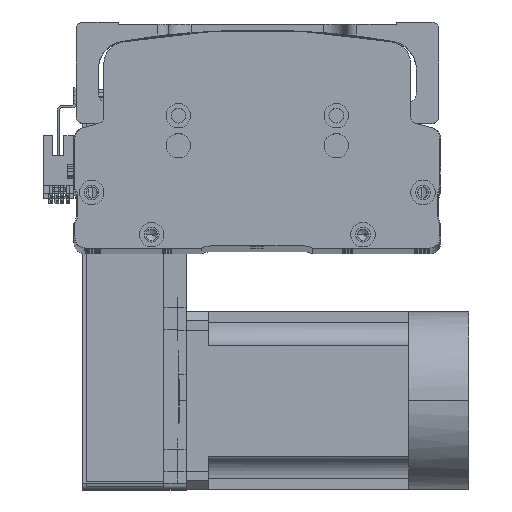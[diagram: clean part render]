
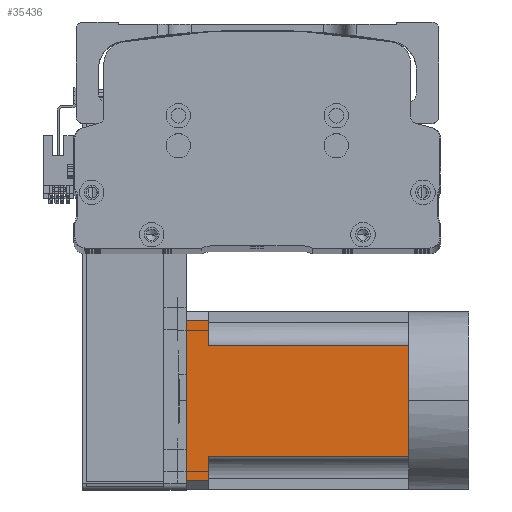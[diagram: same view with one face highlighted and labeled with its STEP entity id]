
A CAD part, top view. The second image highlights one B-rep face of the part: STEP entity #35436.
In plain terms, the highlighted planar face has unit normal (0, 0, 1) as drawn and (0, 0, -1) by its records, which use the part's own axes.
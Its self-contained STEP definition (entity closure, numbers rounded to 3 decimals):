
#1081 = CARTESIAN_POINT ( 'NONE',  ( 25., -27., -40. ) ) ;
#1153 = EDGE_CURVE ( 'NONE', #33820, #29808, #12576, .T. ) ;
#2496 = VECTOR ( 'NONE', #59731, 1000. ) ;
#3168 = LINE ( 'NONE', #37440, #16912 ) ;
#5943 = EDGE_CURVE ( 'NONE', #28957, #33820, #40744, .T. ) ;
#7772 = LINE ( 'NONE', #39000, #47227 ) ;
#8208 = LINE ( 'NONE', #45772, #61372 ) ;
#10039 = PLANE ( 'NONE',  #44722 ) ;
#11509 = DIRECTION ( 'NONE',  ( 0., -1., 0. ) ) ;
#12007 = VERTEX_POINT ( 'NONE', #57674 ) ;
#12576 = LINE ( 'NONE', #48423, #50399 ) ;
#13175 = ORIENTED_EDGE ( 'NONE', *, *, #61878, .T. ) ;
#13718 = EDGE_LOOP ( 'NONE', ( #35740, #50623, #40232, #56312, #45169, #54653, #13175, #26385, #25617 ) ) ;
#13914 = LINE ( 'NONE', #30969, #25994 ) ;
#14144 = CARTESIAN_POINT ( 'NONE',  ( -25., 0., -40. ) ) ;
#16912 = VECTOR ( 'NONE', #32247, 1000. ) ;
#18187 = FACE_OUTER_BOUND ( 'NONE', #13718, .T. ) ;
#19977 = EDGE_CURVE ( 'NONE', #32586, #29808, #13914, .T. ) ;
#20013 = CARTESIAN_POINT ( 'NONE',  ( 36., 90., -40. ) ) ;
#20056 = DIRECTION ( 'NONE',  ( 0., -1., 0. ) ) ;
#20839 = VERTEX_POINT ( 'NONE', #14144 ) ;
#23616 = DIRECTION ( 'NONE',  ( -1., 0., 0. ) ) ;
#25617 = ORIENTED_EDGE ( 'NONE', *, *, #1153, .T. ) ;
#25994 = VECTOR ( 'NONE', #51388, 1000. ) ;
#26385 = ORIENTED_EDGE ( 'NONE', *, *, #5943, .T. ) ;
#27032 = VECTOR ( 'NONE', #31543, 1000. ) ;
#28957 = VERTEX_POINT ( 'NONE', #58359 ) ;
#29440 = CARTESIAN_POINT ( 'NONE',  ( 0., 0., -40. ) ) ;
#29808 = VERTEX_POINT ( 'NONE', #45158 ) ;
#30217 = EDGE_CURVE ( 'NONE', #51836, #20839, #7772, .T. ) ;
#30969 = CARTESIAN_POINT ( 'NONE',  ( -40., 100., -40. ) ) ;
#31543 = DIRECTION ( 'NONE',  ( -1., 0., 0. ) ) ;
#32247 = DIRECTION ( 'NONE',  ( -1., 0., 0. ) ) ;
#32586 = VERTEX_POINT ( 'NONE', #40664 ) ;
#33820 = VERTEX_POINT ( 'NONE', #55200 ) ;
#34078 = CARTESIAN_POINT ( 'NONE',  ( -25., -27., -40. ) ) ;
#35436 = ADVANCED_FACE ( 'NONE', ( #18187 ), #10039, .T. ) ;
#35740 = ORIENTED_EDGE ( 'NONE', *, *, #19977, .F. ) ;
#35923 = DIRECTION ( 'NONE',  ( -1., 0., 0. ) ) ;
#37440 = CARTESIAN_POINT ( 'NONE',  ( -40., 90., -40. ) ) ;
#38143 = DIRECTION ( 'NONE',  ( 0., 1., 0. ) ) ;
#38867 = VECTOR ( 'NONE', #11509, 1000. ) ;
#39000 = CARTESIAN_POINT ( 'NONE',  ( -40., 0., -40. ) ) ;
#40232 = ORIENTED_EDGE ( 'NONE', *, *, #41942, .T. ) ;
#40431 = LINE ( 'NONE', #1081, #38867 ) ;
#40664 = CARTESIAN_POINT ( 'NONE',  ( 36., 100., -40. ) ) ;
#40744 = LINE ( 'NONE', #51994, #27032 ) ;
#41339 = EDGE_CURVE ( 'NONE', #32586, #57471, #8208, .T. ) ;
#41942 = EDGE_CURVE ( 'NONE', #57471, #46996, #3168, .T. ) ;
#43686 = LINE ( 'NONE', #34078, #2496 ) ;
#44722 = AXIS2_PLACEMENT_3D ( 'NONE', #56393, #66757, #35923 ) ;
#45158 = CARTESIAN_POINT ( 'NONE',  ( -36., 100., -40. ) ) ;
#45169 = ORIENTED_EDGE ( 'NONE', *, *, #64561, .T. ) ;
#45772 = CARTESIAN_POINT ( 'NONE',  ( 36., -27., -40. ) ) ;
#46996 = VERTEX_POINT ( 'NONE', #61711 ) ;
#47215 = VECTOR ( 'NONE', #58777, 1000. ) ;
#47227 = VECTOR ( 'NONE', #23616, 1000. ) ;
#48423 = CARTESIAN_POINT ( 'NONE',  ( -36., -27., -40. ) ) ;
#50399 = VECTOR ( 'NONE', #38143, 1000. ) ;
#50623 = ORIENTED_EDGE ( 'NONE', *, *, #41339, .T. ) ;
#51388 = DIRECTION ( 'NONE',  ( -1., 0., 0. ) ) ;
#51836 = VERTEX_POINT ( 'NONE', #29440 ) ;
#51994 = CARTESIAN_POINT ( 'NONE',  ( -40., 90., -40. ) ) ;
#53569 = CARTESIAN_POINT ( 'NONE',  ( -40., 0., -40. ) ) ;
#54653 = ORIENTED_EDGE ( 'NONE', *, *, #30217, .T. ) ;
#55200 = CARTESIAN_POINT ( 'NONE',  ( -36., 90., -40. ) ) ;
#56312 = ORIENTED_EDGE ( 'NONE', *, *, #66665, .T. ) ;
#56393 = CARTESIAN_POINT ( 'NONE',  ( -40., -27., -40. ) ) ;
#57471 = VERTEX_POINT ( 'NONE', #20013 ) ;
#57674 = CARTESIAN_POINT ( 'NONE',  ( 25., 0., -40. ) ) ;
#58359 = CARTESIAN_POINT ( 'NONE',  ( -25., 90., -40. ) ) ;
#58777 = DIRECTION ( 'NONE',  ( -1., 0., 0. ) ) ;
#59731 = DIRECTION ( 'NONE',  ( 0., 1., 0. ) ) ;
#61372 = VECTOR ( 'NONE', #20056, 1000. ) ;
#61711 = CARTESIAN_POINT ( 'NONE',  ( 25., 90., -40. ) ) ;
#61878 = EDGE_CURVE ( 'NONE', #20839, #28957, #43686, .T. ) ;
#62541 = LINE ( 'NONE', #53569, #47215 ) ;
#64561 = EDGE_CURVE ( 'NONE', #12007, #51836, #62541, .T. ) ;
#66665 = EDGE_CURVE ( 'NONE', #46996, #12007, #40431, .T. ) ;
#66757 = DIRECTION ( 'NONE',  ( 0., 0., -1. ) ) ;
